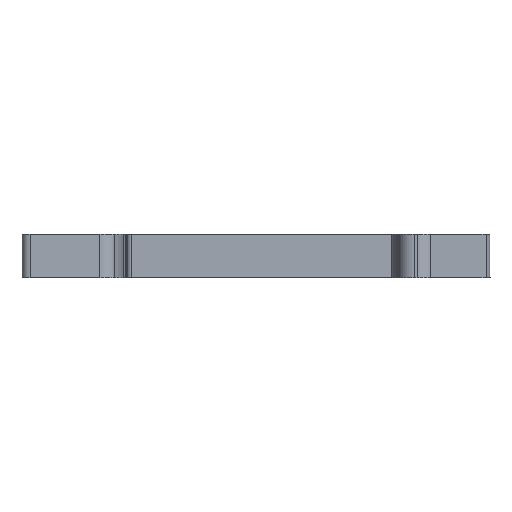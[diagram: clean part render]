
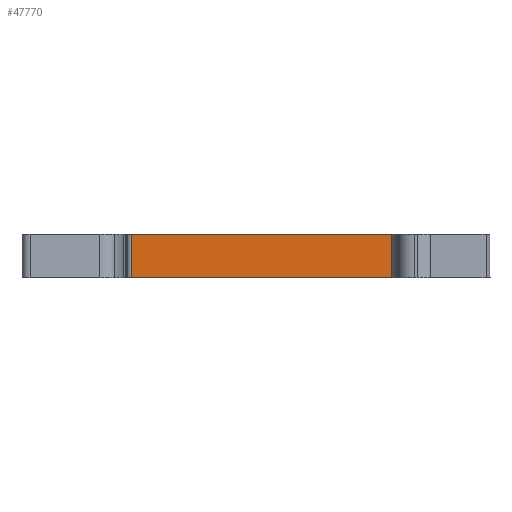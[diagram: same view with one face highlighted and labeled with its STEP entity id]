
A CAD part, front view. The second image highlights one B-rep face of the part: STEP entity #47770.
In plain terms, the highlighted planar face has unit normal (0, -1, 0).
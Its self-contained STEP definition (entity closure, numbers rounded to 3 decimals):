
#9600=CARTESIAN_POINT('',(52.85,6.,
0.));
#9610=VERTEX_POINT('',#9600);
#9640=CARTESIAN_POINT('',(-10.419,6.,
0.));
#9650=DIRECTION('',(-1.,0.,0.));
#9660=VECTOR('',#9650,1.);
#9670=LINE('',#9640,#9660);
#9680=CARTESIAN_POINT('',(20.402,6.,
0.));
#9690=VERTEX_POINT('',#9680);
#9700=EDGE_CURVE('',#9610,#9690,#9670,.T.);
#17730=CARTESIAN_POINT('',(20.402,6.,
-5.15));
#17740=VERTEX_POINT('',#17730);
#17770=CARTESIAN_POINT('',(-10.419,6.,
-5.15));
#17780=DIRECTION('',(-1.,0.,0.));
#17790=VECTOR('',#17780,1.);
#17800=LINE('',#17770,#17790);
#17810=CARTESIAN_POINT('',(52.85,6.,
-5.15));
#17820=VERTEX_POINT('',#17810);
#17830=EDGE_CURVE('',#17820,#17740,#17800,.T.);
#47430=CARTESIAN_POINT('',(20.402,6.,
0.));
#47440=DIRECTION('',(0.,0.,1.));
#47450=VECTOR('',#47440,1.);
#47460=LINE('',#47430,#47450);
#47470=EDGE_CURVE('',#17740,#9690,#47460,.T.);
#47610=CARTESIAN_POINT('',(33.702,6.,
0.));
#47620=DIRECTION('',(0.,-1.,0.));
#47630=DIRECTION('',(-1.,0.,0.));
#47640=AXIS2_PLACEMENT_3D('',#47610,#47620,#47630);
#47650=PLANE('',#47640);
#47660=ORIENTED_EDGE('',*,*,#17830,.F.);
#47670=ORIENTED_EDGE('',*,*,#47470,.F.);
#47680=ORIENTED_EDGE('',*,*,#9700,.T.);
#47690=CARTESIAN_POINT('',(52.85,6.,
0.));
#47700=DIRECTION('',(0.,0.,-1.));
#47710=VECTOR('',#47700,1.);
#47720=LINE('',#47690,#47710);
#47730=EDGE_CURVE('',#9610,#17820,#47720,.T.);
#47740=ORIENTED_EDGE('',*,*,#47730,.F.);
#47750=EDGE_LOOP('',(#47740,#47680,#47670,#47660));
#47760=FACE_OUTER_BOUND('',#47750,.T.);
#47770=ADVANCED_FACE('',(#47760),#47650,.T.);
